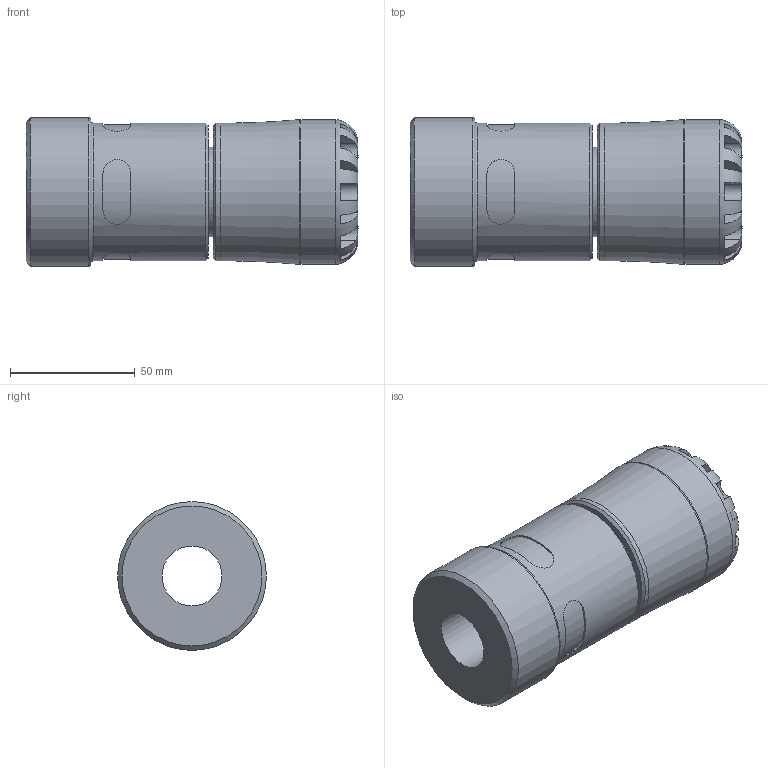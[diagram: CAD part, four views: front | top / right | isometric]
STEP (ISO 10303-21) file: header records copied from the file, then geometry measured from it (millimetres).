
FILE_DESCRIPTION(/* description */ ('PLASSON MALE ADAPTOR 32X2" SERIES 1'),/* implementation_level */ '2;1');
FILE_NAME(/* name */ 'C:\Dropbox\KIMPROJECTS-Inventor 2019\99-16-3568-Processing\S1\10N20\stp\10N200032020_10N2G0032020.stp',/* time_stamp */ '2024-03-12T13:19:36+01:00',/* author */ ('KIM'),/* organization */ (''),/* preprocessor_version */ 'ST-DEVELOPER v17.2',/* originating_system */ 'Autodesk Inventor 2019',/* authorisation */ '');
FILE_SCHEMA (('AUTOMOTIVE_DESIGN { 1 0 10303 214 3 1 1 }'));
Length unit declared in the file: millimetre
Products named in the file (1): 10N200032020_10N2G0032020
Bounding box: 133 x 59.61 x 59.61 mm (x, y, z)
Volume: 246736.3 mm3; surface area: 43029.2 mm2
Topology: 1 solids, 1 shells, 106 faces, 279 edges, 182 vertices
Faces by surface type: plane 62, cylinder 35, torus 5, cone 4
Full cylindrical faces by diameter (mm): 24 x1, 32 x1, 36 x1, 55.1 x2, 58 x1, 59.614 x1
Entity records: 4224 total; most frequent: CARTESIAN_POINT 1490, ORIENTED_EDGE 558, DIRECTION 552, EDGE_CURVE 279, AXIS2_PLACEMENT_3D 230, VERTEX_POINT 182, CIRCLE 123, EDGE_LOOP 115
